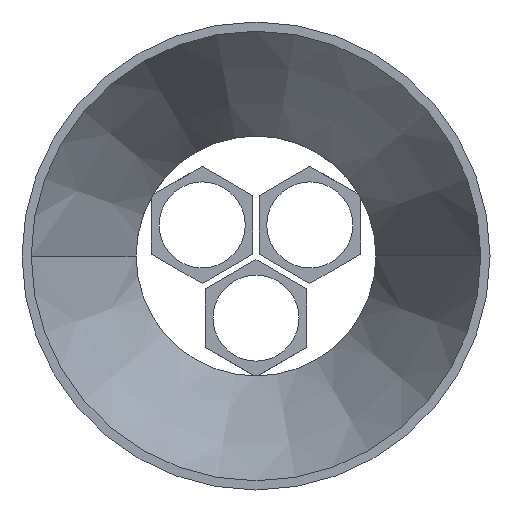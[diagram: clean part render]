
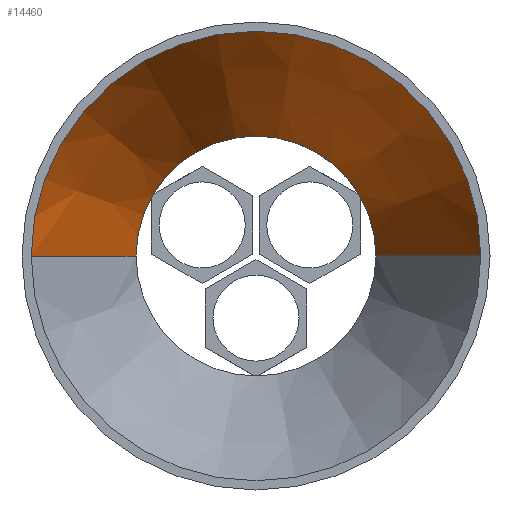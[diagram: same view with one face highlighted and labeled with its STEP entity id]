
A CAD part, front view. The second image highlights one B-rep face of the part: STEP entity #14460.
In plain terms, the highlighted conical face has half-angle 25.989 degrees and reference radius 37.05 mm.
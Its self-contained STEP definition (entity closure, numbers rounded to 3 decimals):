
#13790=CARTESIAN_POINT('',(-30.654,187.131,
0.));
#13800=VERTEX_POINT('',#13790);
#13890=CARTESIAN_POINT('',(-69.654,187.131,0.));
#13900=VERTEX_POINT('',#13890);
#13930=CARTESIAN_POINT('',(-50.154,187.131,0.));
#13940=DIRECTION('',(0.,1.,0.));
#13950=DIRECTION('',(-1.,0.,0.));
#13960=AXIS2_PLACEMENT_3D('',#13930,#13940,#13950);
#13970=CIRCLE('',#13960,19.5);
#13980=EDGE_CURVE('',#13900,#13800,#13970,.T.);
#14150=CARTESIAN_POINT('',(-50.154,151.131,0.));
#14160=DIRECTION('',(0.,-1.,0.));
#14170=DIRECTION('',(1.,0.,0.));
#14180=AXIS2_PLACEMENT_3D('',#14150,#14160,#14170);
#14190=CONICAL_SURFACE('',#14180,37.05,0.454);
#14200=CARTESIAN_POINT('',(-87.204,151.131,0.));
#14210=DIRECTION('',(-0.438,-0.899,0.));
#14220=VECTOR('',#14210,1.);
#14230=LINE('',#14200,#14220);
#14240=CARTESIAN_POINT('',(-86.704,152.156,0.));
#14250=VERTEX_POINT('',#14240);
#14260=EDGE_CURVE('',#13900,#14250,#14230,.T.);
#14270=ORIENTED_EDGE('',*,*,#14260,.F.);
#14280=CARTESIAN_POINT('',(-50.154,152.156,0.));
#14290=DIRECTION('',(0.,-1.,0.));
#14300=DIRECTION('',(1.,0.,0.));
#14310=AXIS2_PLACEMENT_3D('',#14280,#14290,#14300);
#14320=CIRCLE('',#14310,36.55);
#14330=CARTESIAN_POINT('',(-13.604,152.156,
0.));
#14340=VERTEX_POINT('',#14330);
#14350=EDGE_CURVE('',#14340,#14250,#14320,.T.);
#14360=ORIENTED_EDGE('',*,*,#14350,.T.);
#14370=CARTESIAN_POINT('',(-13.104,151.131,
0.));
#14380=DIRECTION('',(0.438,-0.899,
0.));
#14390=VECTOR('',#14380,1.);
#14400=LINE('',#14370,#14390);
#14410=EDGE_CURVE('',#13800,#14340,#14400,.T.);
#14420=ORIENTED_EDGE('',*,*,#14410,.T.);
#14430=ORIENTED_EDGE('',*,*,#13980,.T.);
#14440=EDGE_LOOP('',(#14430,#14420,#14360,#14270));
#14450=FACE_OUTER_BOUND('',#14440,.T.);
#14460=ADVANCED_FACE('',(#14450),#14190,.F.);
